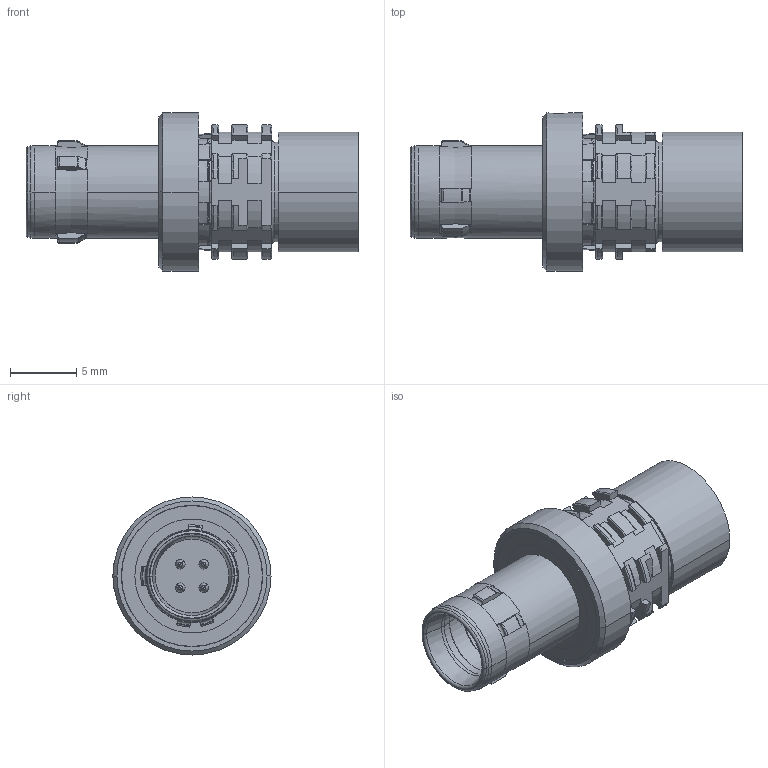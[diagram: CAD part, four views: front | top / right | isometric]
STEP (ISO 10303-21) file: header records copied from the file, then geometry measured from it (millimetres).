
FILE_DESCRIPTION((''),'2;1');
FILE_NAME('00053454-A_ASM','2020-10-14T07:08:34',('EUnterhaslberger'),(''),'CREO PARAMETRIC BY PTC INC, 2018300','CREO PARAMETRIC BY PTC INC, 2018300','');
FILE_SCHEMA(('AP242_MANAGED_MODEL_BASED_3D_ENGINEERING_MIM_LF { 1 0 10303 442 1 1 4 }'));
Length unit declared in the file: millimetre
Products named in the file (4): TEMP_SW_STEP_MONOBLOCK_1_1; TEMP_SW_STEP_MONOBLOCK_1_2; TEMP_SW_STEP_MONOBLOCK_1_ASM; 00053454-A_ASM
Assembly tree (3 placements, depth 3):
  00053454-A_ASM
    TEMP_SW_STEP_MONOBLOCK_1_ASM
      TEMP_SW_STEP_MONOBLOCK_1_1
      TEMP_SW_STEP_MONOBLOCK_1_2
Bounding box: 25 x 11.9 x 11.9 mm (x, y, z)
Volume: 969.7 mm3; surface area: 2133 mm2
Topology: 2 solids, 2 shells, 576 faces, 1626 edges, 1059 vertices
Faces by surface type: plane 190, cylinder 166, torus 125, cone 79, bspline 8, sphere 8
Entity records: 24253 total; most frequent: CARTESIAN_POINT 4950, ORIENTED_EDGE 3220, DIRECTION 3157, EDGE_CURVE 1610, AXIS2_PLACEMENT_3D 1258, VERTEX_POINT 1059, CIRCLE 681, VECTOR 641
